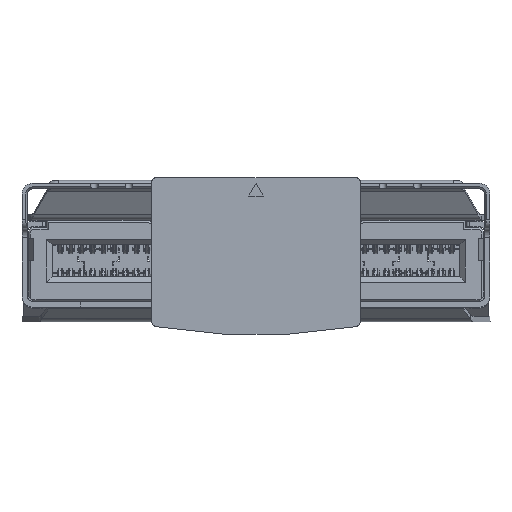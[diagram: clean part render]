
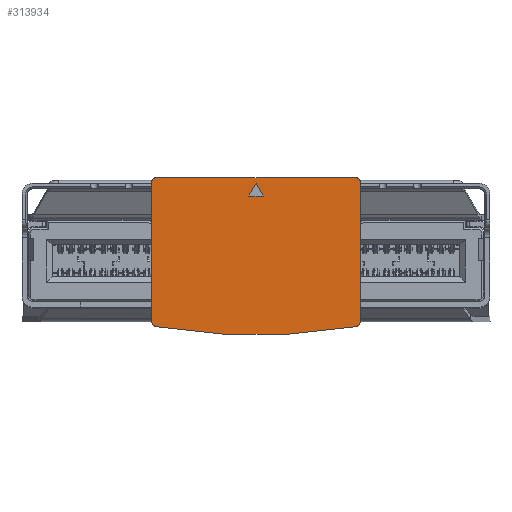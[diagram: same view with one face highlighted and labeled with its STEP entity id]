
A CAD part, top view. The second image highlights one B-rep face of the part: STEP entity #313934.
In plain terms, the highlighted planar face has unit normal (0, 0, 1).
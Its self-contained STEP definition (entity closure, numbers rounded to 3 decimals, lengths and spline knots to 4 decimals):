
#135=DIRECTION('',(0.,1.,0.));
#136=VECTOR('',#135,0.3034);
#137=CARTESIAN_POINT('',(0.226,-0.1314,
0.0807));
#138=LINE('',#137,#136);
#1561=DIRECTION('',(0.,-1.,0.));
#1562=VECTOR('',#1561,0.3034);
#1563=CARTESIAN_POINT('',(-0.226,0.172,
0.0807));
#1564=LINE('',#1563,#1562);
#92816=CARTESIAN_POINT('',(0.2142,-0.1314,
0.0807));
#92817=DIRECTION('',(0.,0.,-1.));
#92818=DIRECTION('',(1.,0.,0.));
#92819=AXIS2_PLACEMENT_3D('',#92816,#92817,#92818);
#92821=CARTESIAN_POINT('',(0.,1.146,0.0807));
#92822=DIRECTION('',(0.,0.,-1.));
#92823=DIRECTION('',(0.165,-0.986,0.));
#92824=AXIS2_PLACEMENT_3D('',#92821,#92822,#92823);
#92826=CARTESIAN_POINT('',(-0.2142,-0.1314,
0.0807));
#92827=DIRECTION('',(0.,0.,-1.));
#92828=DIRECTION('',(-0.165,-0.986,0.));
#92829=AXIS2_PLACEMENT_3D('',#92826,#92827,#92828);
#92831=CARTESIAN_POINT('',(-0.2181,0.172,
0.0807));
#92832=DIRECTION('',(0.,0.,-1.));
#92833=DIRECTION('',(-1.,0.,0.));
#92834=AXIS2_PLACEMENT_3D('',#92831,#92832,#92833);
#92836=CARTESIAN_POINT('',(0.2181,0.172,
0.0807));
#92837=DIRECTION('',(0.,0.,-1.));
#92838=DIRECTION('',(0.,1.,0.));
#92839=AXIS2_PLACEMENT_3D('',#92836,#92837,#92838);
#92841=DIRECTION('',(-0.5,-0.866,0.));
#92842=VECTOR('',#92841,0.0318);
#92843=CARTESIAN_POINT('',(0.,0.1681,0.0807));
#92844=LINE('',#92843,#92842);
#92845=DIRECTION('',(1.,0.,0.));
#92846=VECTOR('',#92845,0.0318);
#92847=CARTESIAN_POINT('',(-0.0159,0.1406,
0.0807));
#92848=LINE('',#92847,#92846);
#92849=DIRECTION('',(-0.5,0.866,0.));
#92850=VECTOR('',#92849,0.0318);
#92851=CARTESIAN_POINT('',(0.0159,0.1406,
0.0807));
#92852=LINE('',#92851,#92850);
#93071=DIRECTION('',(-1.,0.,0.));
#93072=VECTOR('',#93071,0.4362);
#93073=CARTESIAN_POINT('',(0.2181,0.1799,
0.0807));
#93074=LINE('',#93073,#93072);
#93569=CARTESIAN_POINT('',(0.226,-0.1314,
0.0807));
#93570=VERTEX_POINT('',#93569);
#93571=CARTESIAN_POINT('',(0.226,0.172,
0.0807));
#93572=VERTEX_POINT('',#93571);
#94452=CARTESIAN_POINT('',(-0.226,0.172,
0.0807));
#94453=VERTEX_POINT('',#94452);
#94454=CARTESIAN_POINT('',(-0.226,-0.1314,
0.0807));
#94455=VERTEX_POINT('',#94454);
#118942=CARTESIAN_POINT('',(0.2181,0.1799,
0.0807));
#118943=VERTEX_POINT('',#118942);
#118944=CARTESIAN_POINT('',(0.2161,-0.143,
0.0807));
#118945=VERTEX_POINT('',#118944);
#118946=CARTESIAN_POINT('',(-0.2161,-0.143,
0.0807));
#118947=VERTEX_POINT('',#118946);
#118948=CARTESIAN_POINT('',(-0.2181,0.1799,
0.0807));
#118949=VERTEX_POINT('',#118948);
#118950=CARTESIAN_POINT('',(0.,0.1681,0.0807));
#118951=CARTESIAN_POINT('',(-0.0159,0.1406,
0.0807));
#118952=VERTEX_POINT('',#118950);
#118953=VERTEX_POINT('',#118951);
#118954=CARTESIAN_POINT('',(0.0159,0.1406,
0.0807));
#118955=VERTEX_POINT('',#118954);
#313906=CARTESIAN_POINT('',(0.,0.,0.0807));
#313907=DIRECTION('',(0.,0.,1.));
#313908=DIRECTION('',(1.,0.,0.));
#313909=AXIS2_PLACEMENT_3D('',#313906,#313907,#313908);
#313910=PLANE('',#313909);
#313912=ORIENTED_EDGE('',*,*,#313911,.T.);
#313914=ORIENTED_EDGE('',*,*,#313913,.T.);
#313916=ORIENTED_EDGE('',*,*,#313915,.T.);
#313917=ORIENTED_EDGE('',*,*,#120495,.F.);
#313919=ORIENTED_EDGE('',*,*,#313918,.T.);
#313921=ORIENTED_EDGE('',*,*,#313920,.F.);
#313922=ORIENTED_EDGE('',*,*,#313897,.T.);
#313923=ORIENTED_EDGE('',*,*,#119131,.F.);
#313924=EDGE_LOOP('',(#313912,#313914,#313916,#313917,#313919,#313921,#313922,
#313923));
#313925=FACE_OUTER_BOUND('',#313924,.F.);
#313927=ORIENTED_EDGE('',*,*,#313926,.T.);
#313929=ORIENTED_EDGE('',*,*,#313928,.T.);
#313931=ORIENTED_EDGE('',*,*,#313930,.T.);
#313932=EDGE_LOOP('',(#313927,#313929,#313931));
#313933=FACE_BOUND('',#313932,.F.);
#313934=ADVANCED_FACE('',(#313925,#313933),#313910,.T.);
#92820=CIRCLE('',#92819,0.0118);
#92825=CIRCLE('',#92824,1.307);
#92830=CIRCLE('',#92829,0.0118);
#92835=CIRCLE('',#92834,0.0079);
#92840=CIRCLE('',#92839,0.0079);
#119131=EDGE_CURVE('',#93570,#93572,#138,.T.);
#120495=EDGE_CURVE('',#94453,#94455,#1564,.T.);
#313897=EDGE_CURVE('',#118943,#93572,#92840,.T.);
#313911=EDGE_CURVE('',#93570,#118945,#92820,.T.);
#313913=EDGE_CURVE('',#118945,#118947,#92825,.T.);
#313915=EDGE_CURVE('',#118947,#94455,#92830,.T.);
#313918=EDGE_CURVE('',#94453,#118949,#92835,.T.);
#313920=EDGE_CURVE('',#118943,#118949,#93074,.T.);
#313926=EDGE_CURVE('',#118952,#118953,#92844,.T.);
#313928=EDGE_CURVE('',#118953,#118955,#92848,.T.);
#313930=EDGE_CURVE('',#118955,#118952,#92852,.T.);
